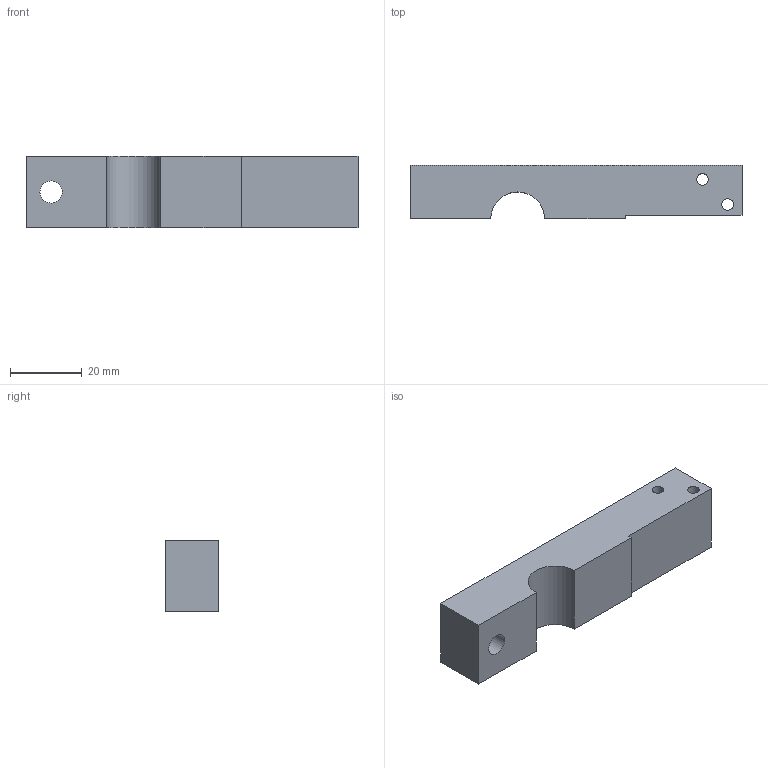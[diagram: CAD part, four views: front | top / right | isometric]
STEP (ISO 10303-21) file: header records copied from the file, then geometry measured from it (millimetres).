
FILE_DESCRIPTION(/* description */ ('HINGE'),/* implementation_level */ '2;1');
FILE_NAME(/* name */ 'C:\Users\Apardo\Documents\Proyectos\Dietrich\Proyecto 1\PLATE ROLLING MACHINE\STEP\1.2 hinge.stp',/* time_stamp */ '2020-11-03T20:40:37-04:00',/* author */ ('Apardo'),/* organization */ ('6'),/* preprocessor_version */ 'ST-DEVELOPER v18',/* originating_system */ 'Autodesk Inventor 2020',/* authorisation */ '');
FILE_SCHEMA (('AUTOMOTIVE_DESIGN { 1 0 10303 214 3 1 1 }'));
Length unit declared in the file: millimetre
Products named in the file (1): hinge
Bounding box: 92.5 x 15 x 20 mm (x, y, z)
Volume: 24160.7 mm3; surface area: 7701.2 mm2
Topology: 1 solids, 1 shells, 15 faces, 40 edges, 28 vertices
Faces by surface type: plane 10, cylinder 5
Full cylindrical faces by diameter (mm): 3.242 x2, 6.2 x1, 11 x1
Entity records: 533 total; most frequent: DIRECTION 86, CARTESIAN_POINT 84, ORIENTED_EDGE 80, EDGE_CURVE 40, AXIS2_PLACEMENT_3D 30, VERTEX_POINT 28, LINE 26, VECTOR 26
